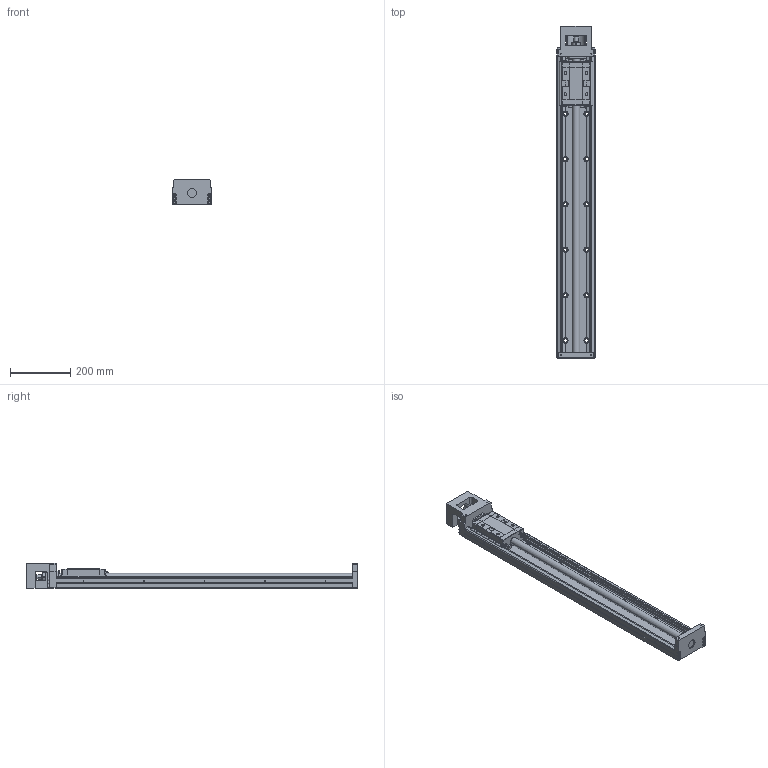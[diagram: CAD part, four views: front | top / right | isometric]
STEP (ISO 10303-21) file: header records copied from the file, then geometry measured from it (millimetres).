
FILE_DESCRIPTION(('no description'),'unknown implementation level');
FILE_NAME('KK13025P980A1F0000_FILE_1.stp',' ',('HIWIN GmbH'),('CADClick - KiM GmbH - www.kimweb.de'),'unknown preprocess','ACIS','unknown authorization');
FILE_SCHEMA(('automotive_design'));
Length unit declared in the file: millimetre
Products named in the file (2): KK130_FILE; KK13025P980A1F0000_FILE
Bounding box: 130 x 1098 x 83 mm (x, y, z)
Volume: 4370301.8 mm3; surface area: 627200.5 mm2
Topology: 2 solids, 7 shells, 779 faces, 1938 edges, 1253 vertices
Faces by surface type: plane 473, cylinder 260, torus 38, cone 6, sphere 2
Entity records: 45558 total; most frequent: DIRECTION 4162, CARTESIAN_POINT 4078, STYLED_ITEM 3970, PRESENTATION_STYLE_ASSIGNMENT 3970, COLOUR_RGB 3970, ORIENTED_EDGE 3872, EDGE_CURVE 1936, CURVE_STYLE 1936
